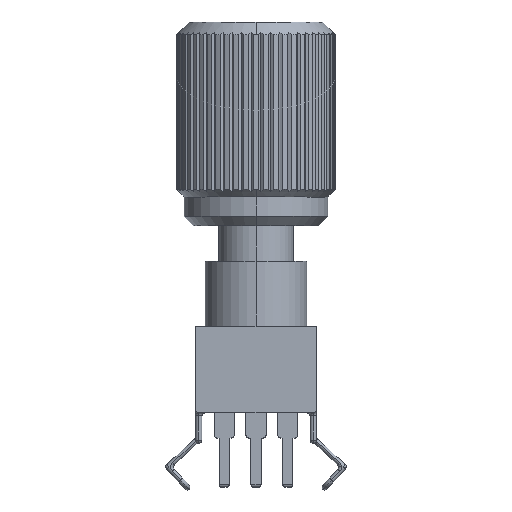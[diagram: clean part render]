
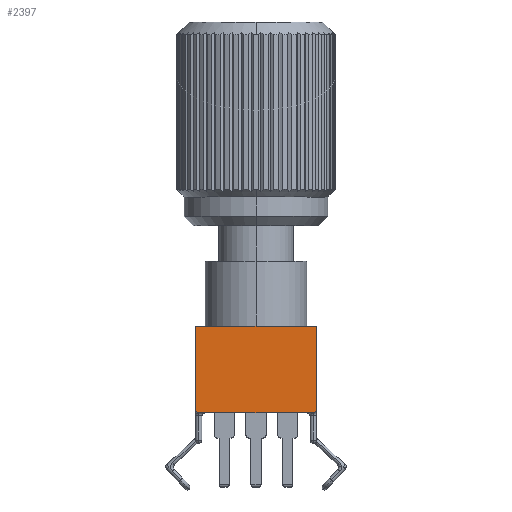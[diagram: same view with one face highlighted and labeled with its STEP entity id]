
A CAD part, top view. The second image highlights one B-rep face of the part: STEP entity #2397.
In plain terms, the highlighted planar face has unit normal (0, 0, 1).
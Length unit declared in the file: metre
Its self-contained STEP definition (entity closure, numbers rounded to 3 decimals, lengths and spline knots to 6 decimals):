
#71 = VECTOR ( 'NONE', #14815, 1. ) ;
#873 = EDGE_CURVE ( 'NONE', #22350, #19102, #13274, .T. ) ;
#1524 = AXIS2_PLACEMENT_3D ( 'NONE', #17246, #6730, #18999 ) ;
#1563 = CARTESIAN_POINT ( 'NONE',  ( -0.0045, 0.0024, 0.00575 ) ) ;
#1801 = EDGE_CURVE ( 'NONE', #4126, #22350, #14591, .T. ) ;
#2397 = ADVANCED_FACE ( 'NONE', ( #22448 ), #11929, .F. ) ;
#2564 = DIRECTION ( 'NONE',  ( 0., -1., 0. ) ) ;
#2797 = CARTESIAN_POINT ( 'NONE',  ( 0.00475, 0.00265, 0.00575 ) ) ;
#3314 = VERTEX_POINT ( 'NONE', #7097 ) ;
#4126 = VERTEX_POINT ( 'NONE', #18481 ) ;
#4547 = CARTESIAN_POINT ( 'NONE',  ( -0.0045, 0.00265, 0.00575 ) ) ;
#4884 = CARTESIAN_POINT ( 'NONE',  ( -0.00475, 0.0092, 0.00575 ) ) ;
#5108 = ORIENTED_EDGE ( 'NONE', *, *, #873, .T. ) ;
#5110 = DIRECTION ( 'NONE',  ( 0., 0., -1. ) ) ;
#6566 = EDGE_CURVE ( 'NONE', #3314, #9371, #13727, .T. ) ;
#6730 = DIRECTION ( 'NONE',  ( 0., 0., 1. ) ) ;
#7097 = CARTESIAN_POINT ( 'NONE',  ( 0.0045, 0.0024, 0.00575 ) ) ;
#7854 = CARTESIAN_POINT ( 'NONE',  ( -0.00475, 0.0024, 0.00575 ) ) ;
#8305 = ORIENTED_EDGE ( 'NONE', *, *, #6566, .T. ) ;
#8430 = CARTESIAN_POINT ( 'NONE',  ( 0.00475, 0.0092, 0.00575 ) ) ;
#9254 = VERTEX_POINT ( 'NONE', #16014 ) ;
#9371 = VERTEX_POINT ( 'NONE', #2797 ) ;
#10197 = ORIENTED_EDGE ( 'NONE', *, *, #14203, .T. ) ;
#10523 = LINE ( 'NONE', #7854, #71 ) ;
#11382 = AXIS2_PLACEMENT_3D ( 'NONE', #4547, #16732, #20158 ) ;
#11929 = PLANE ( 'NONE',  #16116 ) ;
#12990 = VECTOR ( 'NONE', #18793, 1. ) ;
#13274 = CIRCLE ( 'NONE', #11382, 0.00025 ) ;
#13550 = ORIENTED_EDGE ( 'NONE', *, *, #18633, .F. ) ;
#13699 = CARTESIAN_POINT ( 'NONE',  ( -0.00475, 0.0092, 0.00575 ) ) ;
#13727 = CIRCLE ( 'NONE', #1524, 0.00025 ) ;
#14203 = EDGE_CURVE ( 'NONE', #19102, #3314, #10523, .T. ) ;
#14502 = ORIENTED_EDGE ( 'NONE', *, *, #18722, .F. ) ;
#14591 = LINE ( 'NONE', #14925, #15952 ) ;
#14815 = DIRECTION ( 'NONE',  ( 1., 0., 0. ) ) ;
#14925 = CARTESIAN_POINT ( 'NONE',  ( -0.00475, 0.0092, 0.00575 ) ) ;
#15341 = ORIENTED_EDGE ( 'NONE', *, *, #1801, .T. ) ;
#15557 = DIRECTION ( 'NONE',  ( -1., 0., 0. ) ) ;
#15952 = VECTOR ( 'NONE', #2564, 1. ) ;
#16014 = CARTESIAN_POINT ( 'NONE',  ( 0.00475, 0.0092, 0.00575 ) ) ;
#16116 = AXIS2_PLACEMENT_3D ( 'NONE', #13699, #5110, #15557 ) ;
#16732 = DIRECTION ( 'NONE',  ( 0., 0., 1. ) ) ;
#17246 = CARTESIAN_POINT ( 'NONE',  ( 0.0045, 0.00265, 0.00575 ) ) ;
#17361 = VECTOR ( 'NONE', #20995, 1. ) ;
#18481 = CARTESIAN_POINT ( 'NONE',  ( -0.00475, 0.0092, 0.00575 ) ) ;
#18633 = EDGE_CURVE ( 'NONE', #9254, #9371, #22257, .T. ) ;
#18722 = EDGE_CURVE ( 'NONE', #4126, #9254, #20890, .T. ) ;
#18793 = DIRECTION ( 'NONE',  ( 0., -1., 0. ) ) ;
#18999 = DIRECTION ( 'NONE',  ( -1., 0., 0. ) ) ;
#19102 = VERTEX_POINT ( 'NONE', #1563 ) ;
#20158 = DIRECTION ( 'NONE',  ( -1., 0., 0. ) ) ;
#20443 = CARTESIAN_POINT ( 'NONE',  ( -0.00475, 0.00265, 0.00575 ) ) ;
#20890 = LINE ( 'NONE', #4884, #17361 ) ;
#20995 = DIRECTION ( 'NONE',  ( 1., 0., 0. ) ) ;
#21396 = EDGE_LOOP ( 'NONE', ( #15341, #5108, #10197, #8305, #13550, #14502 ) ) ;
#22257 = LINE ( 'NONE', #8430, #12990 ) ;
#22350 = VERTEX_POINT ( 'NONE', #20443 ) ;
#22448 = FACE_OUTER_BOUND ( 'NONE', #21396, .T. ) ;
